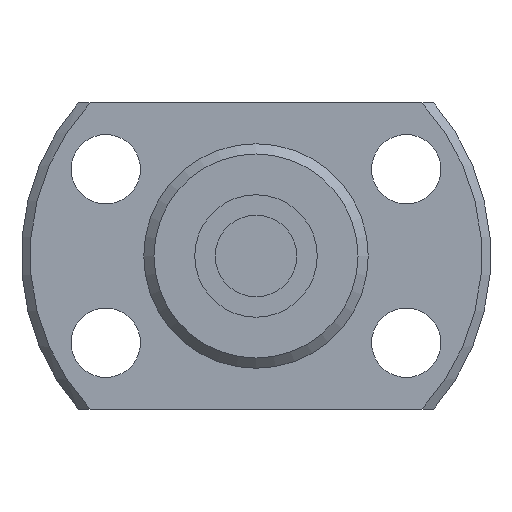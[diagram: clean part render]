
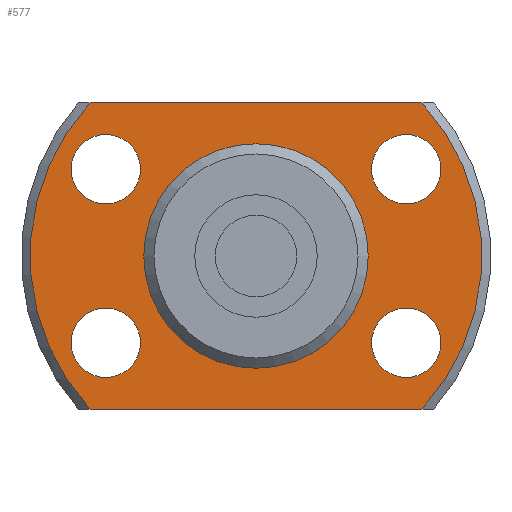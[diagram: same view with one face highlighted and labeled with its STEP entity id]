
A CAD part, left-side view. The second image highlights one B-rep face of the part: STEP entity #577.
In plain terms, the highlighted planar face has unit normal (-1, 0, 0) as drawn and (1, 0, 0) by its records, which use the part's own axes.
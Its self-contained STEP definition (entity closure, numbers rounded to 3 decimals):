
#72=LINE('',#1021,#88);
#73=LINE('',#1023,#89);
#88=VECTOR('',#844,1000.);
#89=VECTOR('',#845,1000.);
#177=ORIENTED_EDGE('',*,*,#273,.T.);
#178=ORIENTED_EDGE('',*,*,#251,.T.);
#179=ORIENTED_EDGE('',*,*,#274,.T.);
#180=ORIENTED_EDGE('',*,*,#275,.T.);
#181=ORIENTED_EDGE('',*,*,#276,.F.);
#182=ORIENTED_EDGE('',*,*,#277,.F.);
#183=ORIENTED_EDGE('',*,*,#278,.F.);
#184=ORIENTED_EDGE('',*,*,#279,.F.);
#185=ORIENTED_EDGE('',*,*,#272,.F.);
#251=EDGE_CURVE('',#310,#312,#359,.T.);
#272=EDGE_CURVE('',#331,#331,#374,.T.);
#273=EDGE_CURVE('',#332,#310,#72,.T.);
#274=EDGE_CURVE('',#312,#333,#73,.T.);
#275=EDGE_CURVE('',#333,#332,#375,.T.);
#276=EDGE_CURVE('',#334,#334,#376,.T.);
#277=EDGE_CURVE('',#335,#335,#377,.T.);
#278=EDGE_CURVE('',#336,#336,#378,.T.);
#279=EDGE_CURVE('',#337,#337,#379,.T.);
#310=VERTEX_POINT('',#956);
#312=VERTEX_POINT('',#963);
#331=VERTEX_POINT('',#1019);
#332=VERTEX_POINT('',#1022);
#333=VERTEX_POINT('',#1024);
#334=VERTEX_POINT('',#1027);
#335=VERTEX_POINT('',#1029);
#336=VERTEX_POINT('',#1031);
#337=VERTEX_POINT('',#1033);
#359=CIRCLE('',#654,11.063);
#374=CIRCLE('',#678,5.3);
#375=CIRCLE('',#680,11.063);
#376=CIRCLE('',#681,1.7);
#377=CIRCLE('',#682,1.7);
#378=CIRCLE('',#683,1.7);
#379=CIRCLE('',#684,1.7);
#436=EDGE_LOOP('',(#177,#178,#179,#180));
#437=EDGE_LOOP('',(#181));
#438=EDGE_LOOP('',(#182));
#439=EDGE_LOOP('',(#183));
#440=EDGE_LOOP('',(#184));
#441=EDGE_LOOP('',(#185));
#510=FACE_BOUND('',#436,.T.);
#511=FACE_BOUND('',#437,.T.);
#512=FACE_BOUND('',#438,.T.);
#513=FACE_BOUND('',#439,.T.);
#514=FACE_BOUND('',#440,.T.);
#515=FACE_BOUND('',#441,.T.);
#544=PLANE('',#679);
#577=ADVANCED_FACE('',(#510,#511,#512,#513,#514,#515),#544,.T.);
#654=AXIS2_PLACEMENT_3D('',#964,#788,#789);
#678=AXIS2_PLACEMENT_3D('',#1018,#840,#841);
#679=AXIS2_PLACEMENT_3D('',#1020,#842,#843);
#680=AXIS2_PLACEMENT_3D('',#1025,#846,#847);
#681=AXIS2_PLACEMENT_3D('',#1026,#848,#849);
#682=AXIS2_PLACEMENT_3D('',#1028,#850,#851);
#683=AXIS2_PLACEMENT_3D('',#1030,#852,#853);
#684=AXIS2_PLACEMENT_3D('',#1032,#854,#855);
#788=DIRECTION('',(1.,0.,0.));
#789=DIRECTION('',(0.,0.,-1.));
#840=DIRECTION('',(1.,0.,0.));
#841=DIRECTION('',(0.,0.,-1.));
#842=DIRECTION('',(1.,0.,0.));
#843=DIRECTION('',(0.,0.,-1.));
#844=DIRECTION('',(0.,-1.,0.));
#845=DIRECTION('',(0.,1.,0.));
#846=DIRECTION('',(1.,0.,0.));
#847=DIRECTION('',(0.,0.,-1.));
#848=DIRECTION('',(1.,0.,0.));
#849=DIRECTION('',(0.,0.,-1.));
#850=DIRECTION('',(1.,0.,0.));
#851=DIRECTION('',(0.,0.,-1.));
#852=DIRECTION('',(1.,0.,0.));
#853=DIRECTION('',(0.,0.,-1.));
#854=DIRECTION('',(1.,0.,0.));
#855=DIRECTION('',(0.,0.,-1.));
#956=CARTESIAN_POINT('',(3.5,-8.132,7.5));
#963=CARTESIAN_POINT('',(3.5,-8.132,-7.5));
#964=CARTESIAN_POINT('',(3.5,0.,0.));
#1018=CARTESIAN_POINT('',(3.5,0.,0.));
#1019=CARTESIAN_POINT('',(3.5,0.,-5.3));
#1020=CARTESIAN_POINT('',(3.5,5.3,0.));
#1021=CARTESIAN_POINT('',(3.5,11.5,7.5));
#1022=CARTESIAN_POINT('',(3.5,8.132,7.5));
#1023=CARTESIAN_POINT('',(3.5,-11.5,-7.5));
#1024=CARTESIAN_POINT('',(3.5,8.132,-7.5));
#1025=CARTESIAN_POINT('',(3.5,0.,0.));
#1026=CARTESIAN_POINT('',(3.5,7.361,4.25));
#1027=CARTESIAN_POINT('',(3.5,7.361,2.55));
#1028=CARTESIAN_POINT('',(3.5,-7.361,4.25));
#1029=CARTESIAN_POINT('',(3.5,-7.361,2.55));
#1030=CARTESIAN_POINT('',(3.5,-7.361,-4.25));
#1031=CARTESIAN_POINT('',(3.5,-7.361,-5.95));
#1032=CARTESIAN_POINT('',(3.5,7.361,-4.25));
#1033=CARTESIAN_POINT('',(3.5,7.361,-5.95));
